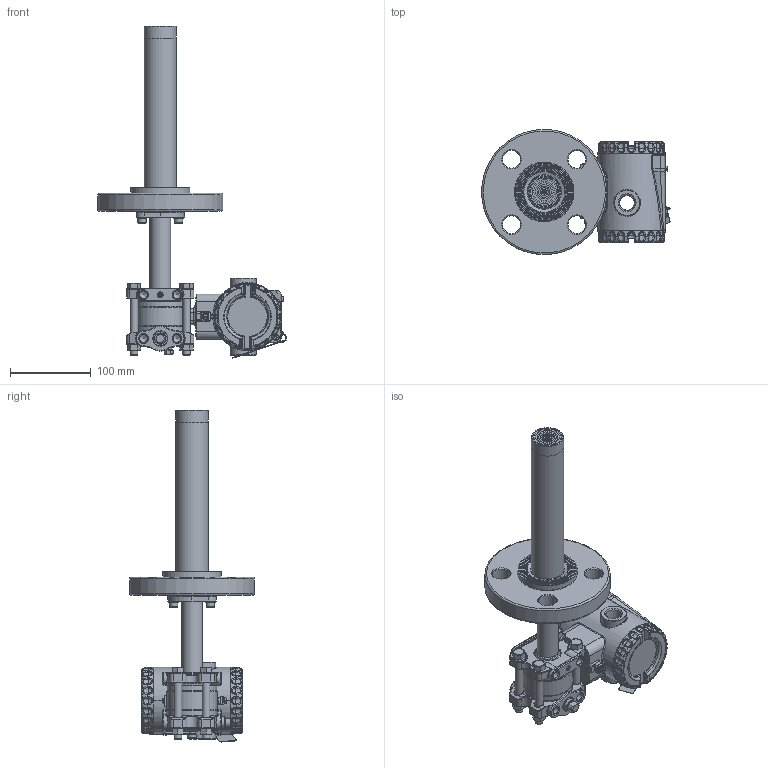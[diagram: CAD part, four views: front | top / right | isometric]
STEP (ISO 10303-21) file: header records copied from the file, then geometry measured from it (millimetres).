
FILE_DESCRIPTION(/* description */ (''),/* implementation_level */ '2;1');
FILE_NAME(/* name */ 'F:\Area\Desenvolvimento_2\Projects\Sensor\projetos\LD400-3d\dimensionais 3D clientes\LD400L\LD400L 1-1-2-600 RF ext 200 ref 1-4NPT purga acima.stp',/* time_stamp */ '2023-02-23T15:02:24-03:00',/* author */ ('inventor02'),/* organization */ (''),/* preprocessor_version */ 'ST-DEVELOPER v17',/* originating_system */ 'Autodesk Inventor 2019',/* authorisation */ '');
FILE_SCHEMA (('CONFIG_CONTROL_DESIGN'));
Products named in the file (41): LD30XL 1-1-2-600 RF ext 200 ref 1-4NPT purga acima; 204-0301-L-1-1-2 600 RF ext 200 purga acima; nivel fx3 com baixa diferencial 1-4NPT purga acima; involucro fx0-3 apos a usinagem final; flange diferencial std purga; 101-C-7484-01 flange selo nivel VR; 201-A-0504-tubo união teste 1; bujao 1-4NPT; Sangria; Porca 3-8 x 16 UNC; Paraf. 3-8 x 16 UNC; adaptação tubo x flanges 1-1-2 a 4pol; 101-B-0161-anel cortado do tubo - teste1; 101-B-0162-flange fixação tubo; ANSI B18.3.1M - M6x1 x 16; DIN 127 - A 6; flange 1-1-2 600 ext 200; 101-B-7699-01 ext 1-1-2-200; 101-B-5190-03; 101-C-3332-02; Carcaça 400 com tampas e plaqueta sem letras; 101-D-0845-05 carcaça LD400 sem letras; 101-B-3614-03-tampa 400 sem letras; Tampa visor 400 montada sem letras; 101-B-3612-05 tampa visor 400 sem letras; 101-A-6107; oring 2034; 00034775-0; WHW_250; DIN 915 - M6 x 10; Chapa aterramento externo; 201-A-1771-02 inserto terra recartilhado; AS 1969 - ST4,2; ISO 1207 - M4 x 8; ANSI B18.3.1M - M4x0,7 x 8; Subconjunto plaqueta 400; plaqueta 400 em branco; Parafuso da Plaqueta; Rebite da Plaqueta; 096-A-0169-03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
Assembly tree (50 placements, depth 4):
  LD30XL 1-1-2-600 RF ext 200 ref 1-4NPT purga acima
    204-0301-L-1-1-2 600 RF ext 200 purga acima
      nivel fx3 com baixa diferencial 1-4NPT purga acima
        involucro fx0-3 apos a usinagem final
        flange diferencial std purga
        101-C-7484-01 flange selo nivel VR
        201-A-0504-tubo união teste 1
        DIN 915 - M6 x 10
        bujao 1-4NPT
        Sangria
        Porca 3-8 x 16 UNC  x4
        Paraf. 3-8 x 16 UNC  x4
      adaptação tubo x flanges 1-1-2 a 4pol
        101-B-0161-anel cortado do tubo - teste1
        101-B-0162-flange fixação tubo
        ANSI B18.3.1M - M6x1 x 16  x2
        DIN 127 - A 6  x2
      flange 1-1-2 600 ext 200
        101-B-7699-01 ext 1-1-2-200
        101-B-5190-03
        101-C-3332-02
    Carcaça 400 com tampas e plaqueta sem letras
      101-D-0845-05 carcaça LD400 sem letras
      101-B-3614-03-tampa 400 sem letras
      Tampa visor 400 montada sem letras
        101-B-3612-05 tampa visor 400 sem letras
        101-A-6107
        oring 2034
        00034775-0
        WHW_250
      DIN 915 - M6 x 10
      Chapa aterramento externo
      201-A-1771-02 inserto terra recartilhado
      AS 1969 - ST4,2
      ISO 1207 - M4 x 8
      ANSI B18.3.1M - M4x0,7 x 8  x2
      Subconjunto plaqueta 400
        plaqueta 400 em branco
        Parafuso da Plaqueta
        Rebite da Plaqueta
        096-A-0169-03
        101-A-0502-01
Bounding box: 232.95 x 154.41 x 410.72 mm (x, y, z)
Volume: 1132421.4 mm3; surface area: 361991.8 mm2
Topology: 43 solids, 43 shells, 2761 faces, 6703 edges, 4023 vertices
Faces by surface type: plane 721, cylinder 664, bspline 605, torus 473, cone 222, sphere 76
Full cylindrical faces by diameter (mm): 2 x4, 2.1 x1, 2.2 x1, 2.459 x3, 2.5 x1, 2.7 x1, 2.8 x1, 3 x4, 3.242 x3, 3.5 x1, 3.571 x1, 4 x5, 4.3 x2, 4.4 x1, 4.917 x4, 5 x1, 5.5 x3, 6 x6, 6.1 x2, 6.2 x1, 6.647 x1, 7 x5, 7.6 x2, 7.798 x4, 8 x1, 9.525 x4, 9.728 x6, 10 x2, 10.5 x8, 10.719 x2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
Entity records: 98556 total; most frequent: CARTESIAN_POINT 37075, DIRECTION 12670, ORIENTED_EDGE 12646, EDGE_CURVE 6323, AXIS2_PLACEMENT_3D 5424, VERTEX_POINT 3829, CIRCLE 3151, EDGE_LOOP 2796
